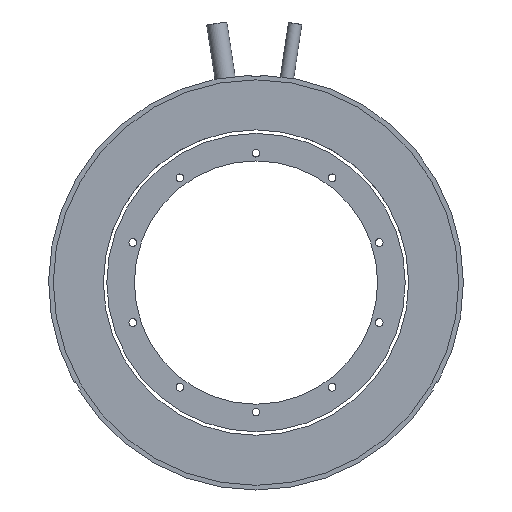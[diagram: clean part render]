
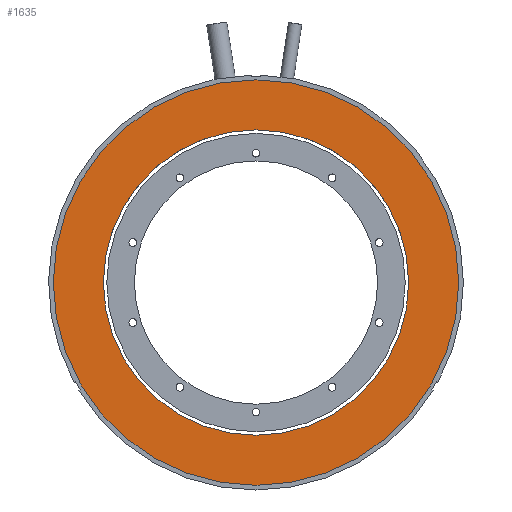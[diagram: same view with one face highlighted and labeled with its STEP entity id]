
A CAD part, front view. The second image highlights one B-rep face of the part: STEP entity #1635.
In plain terms, the highlighted planar face has unit normal (0, -1, 0) as drawn and (0, 0, -1) by its records, which use the part's own axes.
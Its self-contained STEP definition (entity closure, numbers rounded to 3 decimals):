
#79 = CIRCLE ( 'NONE', #1569, 65. ) ;
#112 = AXIS2_PLACEMENT_3D ( 'NONE', #911, #2149, #1618 ) ;
#227 = ORIENTED_EDGE ( 'NONE', *, *, #1874, .F. ) ;
#253 = CARTESIAN_POINT ( 'NONE',  ( 0., 0., 0. ) ) ;
#276 = DIRECTION ( 'NONE',  ( 0., 0., 1. ) ) ;
#416 = DIRECTION ( 'NONE',  ( 0., 0., -1. ) ) ;
#447 = DIRECTION ( 'NONE',  ( 1., 0., 0. ) ) ;
#475 = VERTEX_POINT ( 'NONE', #1144 ) ;
#554 = EDGE_LOOP ( 'NONE', ( #995, #227 ) ) ;
#672 = AXIS2_PLACEMENT_3D ( 'NONE', #820, #276, #2227 ) ;
#777 = CARTESIAN_POINT ( 'NONE',  ( -48.95, 0., 0. ) ) ;
#820 = CARTESIAN_POINT ( 'NONE',  ( 0., 0., 0. ) ) ;
#911 = CARTESIAN_POINT ( 'NONE',  ( 0., 0., 0. ) ) ;
#929 = EDGE_LOOP ( 'NONE', ( #1065, #2067 ) ) ;
#956 = DIRECTION ( 'NONE',  ( 1., 0., 0. ) ) ;
#995 = ORIENTED_EDGE ( 'NONE', *, *, #1851, .F. ) ;
#1052 = FACE_OUTER_BOUND ( 'NONE', #554, .T. ) ;
#1065 = ORIENTED_EDGE ( 'NONE', *, *, #1863, .T. ) ;
#1144 = CARTESIAN_POINT ( 'NONE',  ( 65., 0., 0. ) ) ;
#1156 = AXIS2_PLACEMENT_3D ( 'NONE', #1854, #2050, #447 ) ;
#1165 = VERTEX_POINT ( 'NONE', #1377 ) ;
#1188 = CIRCLE ( 'NONE', #112, 48.95 ) ;
#1281 = CARTESIAN_POINT ( 'NONE',  ( 48.95, 0., 0. ) ) ;
#1337 = DIRECTION ( 'NONE',  ( 0., 0., 1. ) ) ;
#1377 = CARTESIAN_POINT ( 'NONE',  ( -65., 0., 0. ) ) ;
#1380 = AXIS2_PLACEMENT_3D ( 'NONE', #1823, #416, #2183 ) ;
#1569 = AXIS2_PLACEMENT_3D ( 'NONE', #253, #1337, #956 ) ;
#1618 = DIRECTION ( 'NONE',  ( 1., 0., 0. ) ) ;
#1635 = ADVANCED_FACE ( 'NONE', ( #1845, #1052 ), #1643, .T. ) ;
#1643 = PLANE ( 'NONE',  #1380 ) ;
#1736 = VERTEX_POINT ( 'NONE', #777 ) ;
#1760 = CIRCLE ( 'NONE', #1156, 65. ) ;
#1823 = CARTESIAN_POINT ( 'NONE',  ( 65., 0., 0. ) ) ;
#1845 = FACE_BOUND ( 'NONE', #929, .T. ) ;
#1851 = EDGE_CURVE ( 'NONE', #475, #1165, #1760, .T. ) ;
#1854 = CARTESIAN_POINT ( 'NONE',  ( 0., 0., 0. ) ) ;
#1863 = EDGE_CURVE ( 'NONE', #2126, #1736, #1868, .T. ) ;
#1868 = CIRCLE ( 'NONE', #672, 48.95 ) ;
#1874 = EDGE_CURVE ( 'NONE', #1165, #475, #79, .T. ) ;
#2050 = DIRECTION ( 'NONE',  ( 0., 0., 1. ) ) ;
#2067 = ORIENTED_EDGE ( 'NONE', *, *, #2140, .T. ) ;
#2126 = VERTEX_POINT ( 'NONE', #1281 ) ;
#2140 = EDGE_CURVE ( 'NONE', #1736, #2126, #1188, .T. ) ;
#2149 = DIRECTION ( 'NONE',  ( 0., 0., 1. ) ) ;
#2183 = DIRECTION ( 'NONE',  ( 0., -1., 0. ) ) ;
#2227 = DIRECTION ( 'NONE',  ( 1., 0., 0. ) ) ;
